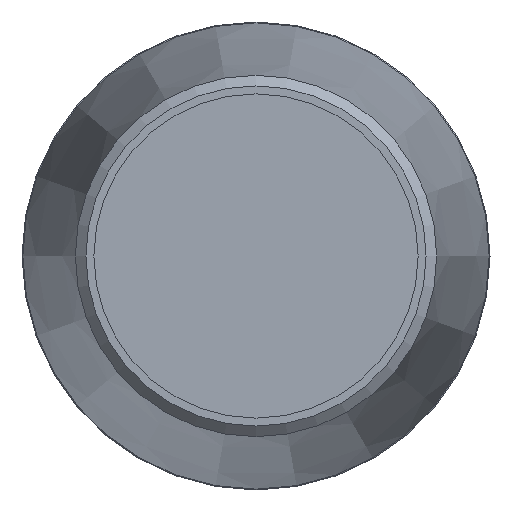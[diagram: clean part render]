
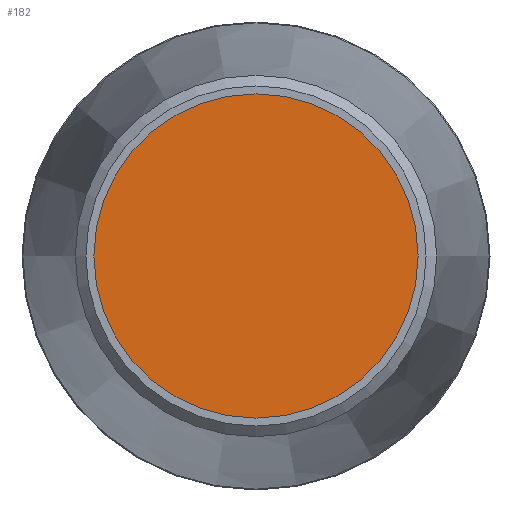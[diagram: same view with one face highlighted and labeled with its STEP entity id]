
A CAD part, left-side view. The second image highlights one B-rep face of the part: STEP entity #182.
In plain terms, the highlighted planar face has unit normal (-1, 0, 0).
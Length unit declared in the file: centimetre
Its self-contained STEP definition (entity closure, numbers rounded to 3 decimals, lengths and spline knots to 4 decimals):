
#20=PLANE('',#211);
#45=FACE_OUTER_BOUND('',#70,.T.);
#70=EDGE_LOOP('',(#140));
#88=CIRCLE('',#210,3.325);
#102=VERTEX_POINT('',#311);
#116=EDGE_CURVE('',#102,#102,#88,.T.);
#140=ORIENTED_EDGE('',*,*,#116,.T.);
#182=ADVANCED_FACE('',(#45),#20,.T.);
#210=AXIS2_PLACEMENT_3D('',#312,#263,#264);
#211=AXIS2_PLACEMENT_3D('',#313,#265,#266);
#263=DIRECTION('center_axis',(-1.,0.,0.));
#264=DIRECTION('ref_axis',(0.,0.,
1.));
#265=DIRECTION('center_axis',(-1.,0.,0.));
#266=DIRECTION('ref_axis',(0.,0.,1.));
#311=CARTESIAN_POINT('',(-19.55,-3.325,0.));
#312=CARTESIAN_POINT('Origin',(-19.55,0.,0.));
#313=CARTESIAN_POINT('Origin',(-19.55,0.,0.));
